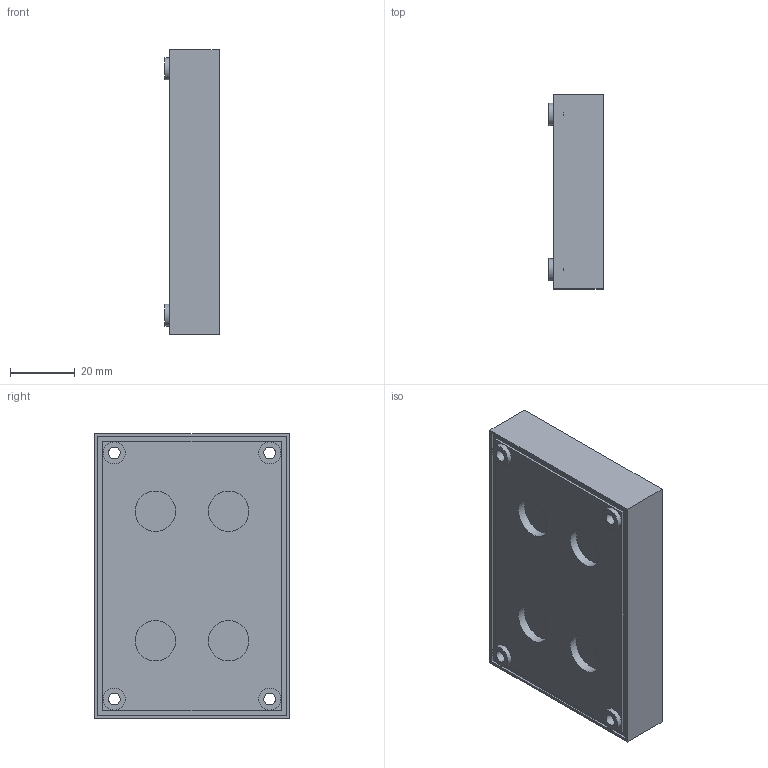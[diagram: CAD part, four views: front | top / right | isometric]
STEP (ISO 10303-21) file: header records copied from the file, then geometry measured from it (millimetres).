
FILE_DESCRIPTION(('FreeCAD Model'),'2;1');
FILE_NAME('Open CASCADE Shape Model','2026-09-11T23:31:11',('FreeCAD'),( 'FreeCAD'),'Open CASCADE STEP processor 7.8','FreeCAD','Unknown');
FILE_SCHEMA(('AUTOMOTIVE_DESIGN { 1 0 10303 214 1 1 1 1 }'));
Length unit declared in the file: millimetre
Products named in the file (1): Open CASCADE STEP translator 7.8 4
Bounding box: 16.7 x 60 x 88 mm (x, y, z)
Volume: 24496.1 mm3; surface area: 19941.3 mm2
Topology: 1 solids, 1 shells, 61 faces, 145 edges, 98 vertices
Faces by surface type: plane 41, cylinder 20
Full cylindrical faces by diameter (mm): 3.6 x4, 4 x2, 6.8 x4, 11.4 x3, 12.5 x4
Entity records: 1804 total; most frequent: DIRECTION 316, CARTESIAN_POINT 309, ORIENTED_EDGE 290, EDGE_CURVE 145, AXIS2_PLACEMENT_3D 113, VERTEX_POINT 98, LINE 90, VECTOR 90
